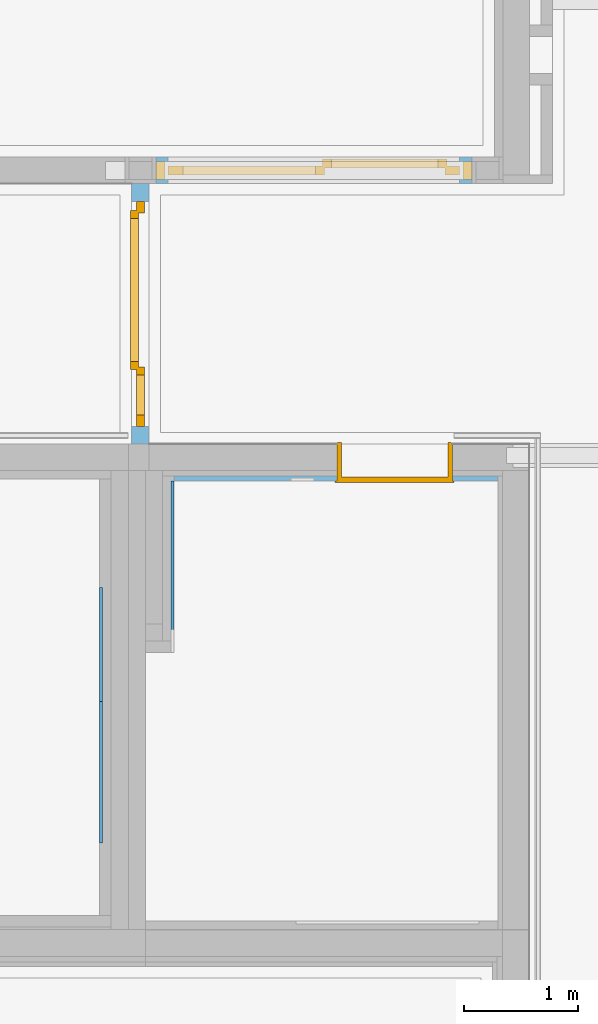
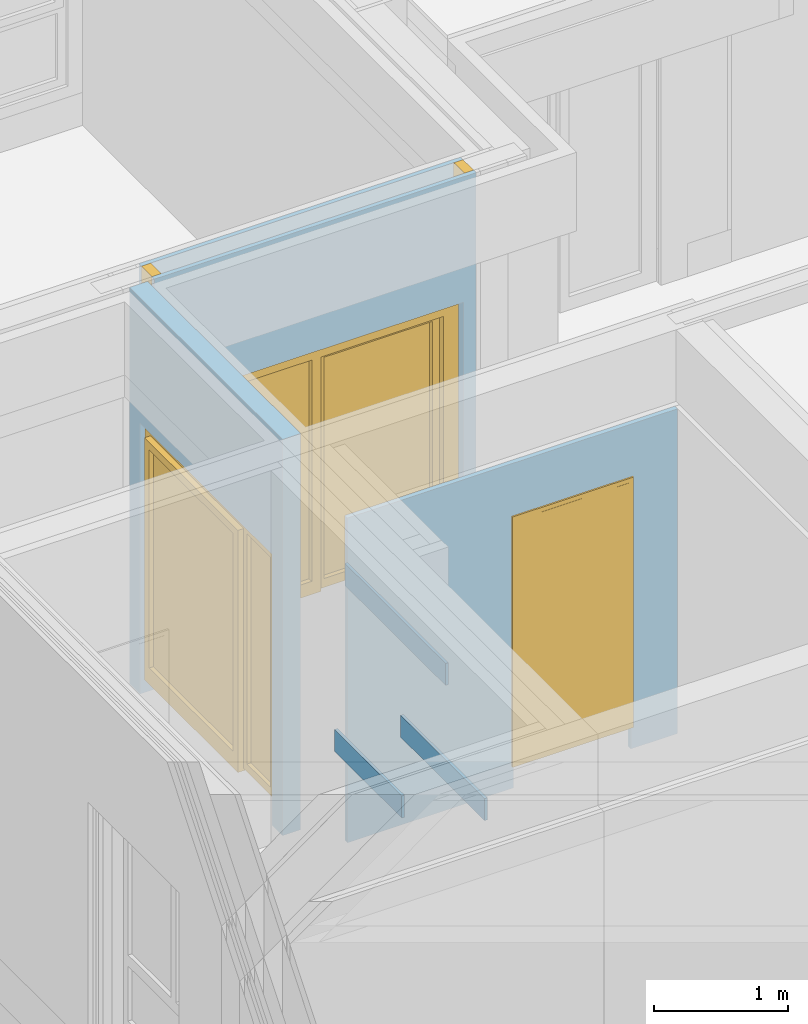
# One storey, part 131 of 207: 3 doors, 3 walls, 3 openings, plus 3 elements that do not belong to this part.
"""IFC4 building model written with IfcOpenShell, lengths in metres."""

from ifc_helpers import new_model, entity, si_unit, converted_unit, derived_unit, frame, frame_2d, origin, origin_with_axes, place, context, subcontext, project, spatial, polyline, rectangle, outline, extrude, clip, bounded_halfspace, closed_shell, open_shell, faceted_brep, surface_model, source, transform, mapped, material, type_object, element, fill, save


model = new_model("IFC4")

# Units and contexts
model_context = context("Model", 3, precision=1e-05, world=origin())
body_context = subcontext(model_context, "Body", "Model", "MODEL_VIEW")
ifc_project = project(units=[si_unit("LENGTHUNIT", "METRE"), si_unit("AREAUNIT", "SQUARE_METRE"), si_unit("VOLUMEUNIT", "CUBIC_METRE"), si_unit("MASSUNIT", "GRAM", prefix="KILO"), converted_unit("PLANEANGLEUNIT", "DEGREE", entity("IfcPlaneAngleMeasure", 0.0174532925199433), si_unit("PLANEANGLEUNIT", "RADIAN"), dimensions=[0, 0, 0, 0, 0, 0, 0]), derived_unit("THERMALTRANSMITTANCEUNIT", [(si_unit("POWERUNIT", "WATT"), 1), (si_unit("THERMODYNAMICTEMPERATUREUNIT", "KELVIN"), -1), (si_unit("LENGTHUNIT", "METRE"), -2)]), derived_unit("VOLUMETRICFLOWRATEUNIT", [(si_unit("LENGTHUNIT", "METRE"), 3), (converted_unit("TIMEUNIT", "hour", entity("IfcTimeMeasure", 3600.0), si_unit("TIMEUNIT", "SECOND"), dimensions=[0, 0, 1, 0, 0, 0, 0]), -1), (si_unit("LENGTHUNIT", "METRE"), -1)])], contexts=[model_context])

# Site, building, storey
site_placement = place(None, origin())
site = spatial("IfcSite", under=ifc_project, at=site_placement, Name="Psychiatrie Neubau Wunstorf", CompositionType="ELEMENT")
building_placement = place(site_placement, origin())
building = spatial("IfcBuilding", under=site, at=building_placement, Name="Neubau H2 Stationsgebäude", CompositionType="ELEMENT")
storey_placement = place(building_placement, frame((0.0, 0.0, -0.2)))
storey = spatial("IfcBuildingStorey", under=building, at=storey_placement, Name="H2 Ebene 0", CompositionType="ELEMENT", Elevation=-0.2)

# Wall, opening, door
ifc_material_1 = material(Name="WI-LW 60")
wall_1_placement = place(storey_placement, frame((64.6385, 22.8639999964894, 0.0), z_axis=(0.0, 0.0, 1.0), x_axis=(0.0, -1.0, 0.0)))
wall_1 = element("IfcWall", 1, at=wall_1_placement, inside=storey, material=ifc_material_1, context=body_context, shape_type="SweptSolid", body=[
    extrude(rectangle(XDim=2.27800196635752, YDim=0.155, at=frame_2d((1.13900098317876, 0.0775), x_axis=(1.0, 0.0))), origin_with_axes(), (0.0, 0.0, 1.0), 3.6),
])
opening_1_placement = place(wall_1_placement, frame((0.155000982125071, 0.0, 0.0), z_axis=(0.0, 1.0, 0.0), x_axis=(0.0, 0.0, 1.0)))
opening_1 = element("IfcOpeningElement", 2, at=opening_1_placement, cuts=wall_1, Name="Türöffnung", ObjectType="Opening", context=body_context, shape_type="SweptSolid", body=[
    extrude(outline(polyline([(2.46, 1.968), (2.46, 0.0), (0.0, 0.0), (0.0, 1.968), (2.46, 1.968)])), origin_with_axes(), (0.0, 0.0, 1.0), 0.155),
])
ifc_material_2 = material(Name="TI-1F-SG-D-M")
shared_shape_1 = source(origin_with_axes(), body_context, "Body", "Brep", [
    faceted_brep([(2.09549999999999, 0.0855000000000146, 0.0), (1.99549999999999, 0.0855000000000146, 0.0), (1.99549999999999, -0.0144999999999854, 0.0), (2.09549999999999, -0.0144999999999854, 0.0), (2.09549999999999, -0.0144999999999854, 3.6), (1.99549999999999, -0.0144999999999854, 3.6), (1.99549999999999, 0.0855000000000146, 3.6), (2.09549999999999, 0.0855000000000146, 3.6)], [[[0, 1, 2, 3]], [[4, 5, 6, 7]], [[3, 4, 7, 0]], [[2, 5, 4, 3]], [[1, 6, 5, 2]], [[0, 7, 6, 1]]], orient=[[False], [False], [False], [False], [False], [False]]),
    faceted_brep([(-0.0275000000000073, 0.0855000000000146, 0.0), (-0.127500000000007, 0.0855000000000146, 0.0), (-0.127500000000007, -0.0144999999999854, 0.0), (-0.0275000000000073, -0.0144999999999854, 0.0), (-0.0275000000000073, -0.0144999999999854, 3.6), (-0.127500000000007, -0.0144999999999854, 3.6), (-0.127500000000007, 0.0855000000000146, 3.6), (-0.0275000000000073, 0.0855000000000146, 3.6)], [[[0, 1, 2, 3]], [[4, 5, 6, 7]], [[3, 4, 7, 0]], [[2, 5, 4, 3]], [[1, 6, 5, 2]], [[0, 7, 6, 1]]], orient=[[False], [False], [False], [False], [False], [False]]),
    faceted_brep([(1.99549999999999, 0.0855000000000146, 2.4875), (-0.0275000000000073, 0.0855000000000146, 2.4875), (-0.0275000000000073, -0.0144999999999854, 2.4875), (1.99549999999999, -0.0144999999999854, 2.4875), (1.99549999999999, -0.0144999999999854, 2.5875), (-0.0275000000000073, -0.0144999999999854, 2.5875), (-0.0275000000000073, 0.0855000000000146, 2.5875), (1.99549999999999, 0.0855000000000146, 2.5875)], [[[0, 1, 2, 3]], [[4, 5, 6, 7]], [[3, 4, 7, 0]], [[2, 5, 4, 3]], [[1, 6, 5, 2]], [[0, 7, 6, 1]]], orient=[[False], [False], [False], [False], [False], [False]]),
])
shared_shape_2 = source(origin_with_axes(), body_context, "Body", "SurfaceModel", [
    surface_model("IfcShellBasedSurfaceModel", [(1.96799999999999, 0.000500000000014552, 2.46), (1.96799999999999, 0.000500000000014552, 0.2), (1.86799999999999, 0.000500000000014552, 0.2), (1.86799999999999, 0.000500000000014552, 2.46), (1.96799999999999, 0.0705000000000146, 0.2), (1.96799999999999, 0.0705000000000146, 2.46), (1.86799999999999, 0.0705000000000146, 2.46), (1.86799999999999, 0.0705000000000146, 0.2)], [closed_shell([[[0, 1, 2, 3]], [[4, 5, 6, 7]], [[1, 0, 5, 4]], [[2, 1, 4, 7]], [[3, 2, 7, 6]], [[0, 3, 6, 5]]], orient=[[False], [False], [False], [False], [False], [False]])]),
    surface_model("IfcShellBasedSurfaceModel", [(0.0999999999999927, 0.000500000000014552, 2.46), (0.0999999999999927, 0.000500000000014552, 0.2), (0.0, 0.000500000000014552, 0.2), (0.0, 0.000500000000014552, 2.46), (0.0999999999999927, 0.0705000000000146, 0.2), (0.0999999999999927, 0.0705000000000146, 2.46), (0.0, 0.0705000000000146, 2.46), (0.0, 0.0705000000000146, 0.2)], [closed_shell([[[0, 1, 2, 3]], [[4, 5, 6, 7]], [[1, 0, 5, 4]], [[2, 1, 4, 7]], [[3, 2, 7, 6]], [[0, 3, 6, 5]]], orient=[[False], [False], [False], [False], [False], [False]])]),
    surface_model("IfcShellBasedSurfaceModel", [(1.86799999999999, 0.000500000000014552, 2.46), (1.86799999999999, 0.000500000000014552, 2.36), (0.0999999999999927, 0.000500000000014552, 2.36), (0.0999999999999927, 0.000500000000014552, 2.46), (1.86799999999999, 0.0705000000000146, 2.36), (1.86799999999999, 0.0705000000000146, 2.46), (0.0999999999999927, 0.0705000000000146, 2.46), (0.0999999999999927, 0.0705000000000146, 2.36)], [closed_shell([[[0, 1, 2, 3]], [[4, 5, 6, 7]], [[1, 0, 5, 4]], [[2, 1, 4, 7]], [[3, 2, 7, 6]], [[0, 3, 6, 5]]], orient=[[False], [False], [False], [False], [False], [False]])]),
    surface_model("IfcShellBasedSurfaceModel", [(0.517999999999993, 0.000500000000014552, 2.36), (0.517999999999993, 0.000500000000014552, 0.2), (0.447999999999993, 0.000500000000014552, 0.2), (0.447999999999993, 0.000500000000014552, 2.36), (0.517999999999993, 0.0705000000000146, 0.2), (0.517999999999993, 0.0705000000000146, 2.36), (0.447999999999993, 0.0705000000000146, 2.36), (0.447999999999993, 0.0705000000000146, 0.2)], [closed_shell([[[0, 1, 2, 3]], [[4, 5, 6, 7]], [[1, 0, 5, 4]], [[2, 1, 4, 7]], [[3, 2, 7, 6]], [[0, 3, 6, 5]]], orient=[[False], [False], [False], [False], [False], [False]])]),
    surface_model("IfcShellBasedSurfaceModel", [(1.88799999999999, 0.0505000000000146, 2.38), (1.88799999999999, 0.0505000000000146, 0.18), (1.81799999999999, 0.0505000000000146, 0.18), (1.81799999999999, 0.0505000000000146, 2.38), (1.88799999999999, 0.120500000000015, 0.18), (1.88799999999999, 0.120500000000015, 2.38), (1.81799999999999, 0.120500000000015, 2.38), (1.81799999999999, 0.120500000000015, 0.18)], [closed_shell([[[0, 1, 2, 3]], [[4, 5, 6, 7]], [[1, 0, 5, 4]], [[2, 1, 4, 7]], [[3, 2, 7, 6]], [[0, 3, 6, 5]]], orient=[[False], [False], [False], [False], [False], [False]])]),
    surface_model("IfcShellBasedSurfaceModel", [(0.567999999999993, 0.0505000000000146, 2.38), (0.567999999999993, 0.0505000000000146, 0.18), (0.497999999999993, 0.0505000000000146, 0.18), (0.497999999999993, 0.0505000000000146, 2.38), (0.567999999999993, 0.120500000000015, 0.18), (0.567999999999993, 0.120500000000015, 2.38), (0.497999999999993, 0.120500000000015, 2.38), (0.497999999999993, 0.120500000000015, 0.18)], [closed_shell([[[0, 1, 2, 3]], [[4, 5, 6, 7]], [[1, 0, 5, 4]], [[2, 1, 4, 7]], [[3, 2, 7, 6]], [[0, 3, 6, 5]]], orient=[[False], [False], [False], [False], [False], [False]])]),
    surface_model("IfcShellBasedSurfaceModel", [(1.81799999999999, 0.0505000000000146, 0.33), (1.81799999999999, 0.0505000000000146, 0.18), (0.567999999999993, 0.0505000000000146, 0.18), (0.567999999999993, 0.0505000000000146, 0.33), (1.81799999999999, 0.120500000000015, 0.18), (1.81799999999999, 0.120500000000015, 0.33), (0.567999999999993, 0.120500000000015, 0.33), (0.567999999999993, 0.120500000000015, 0.18)], [closed_shell([[[0, 1, 2, 3]], [[4, 5, 6, 7]], [[1, 0, 5, 4]], [[2, 1, 4, 7]], [[3, 2, 7, 6]], [[0, 3, 6, 5]]], orient=[[False], [False], [False], [False], [False], [False]])]),
    surface_model("IfcShellBasedSurfaceModel", [(1.81799999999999, 0.0505000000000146, 2.38), (1.81799999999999, 0.0505000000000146, 2.31), (0.567999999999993, 0.0505000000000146, 2.31), (0.567999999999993, 0.0505000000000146, 2.38), (1.81799999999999, 0.120500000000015, 2.31), (1.81799999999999, 0.120500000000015, 2.38), (0.567999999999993, 0.120500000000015, 2.38), (0.567999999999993, 0.120500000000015, 2.31)], [closed_shell([[[0, 1, 2, 3]], [[4, 5, 6, 7]], [[1, 0, 5, 4]], [[2, 1, 4, 7]], [[3, 2, 7, 6]], [[0, 3, 6, 5]]], orient=[[False], [False], [False], [False], [False], [False]])]),
    surface_model("IfcShellBasedSurfaceModel", [(0.447999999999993, 0.000500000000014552, 0.27), (0.447999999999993, 0.000500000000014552, 0.2), (0.0999999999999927, 0.000500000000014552, 0.2), (0.0999999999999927, 0.000500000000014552, 0.27), (0.447999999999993, 0.0705000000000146, 0.2), (0.447999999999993, 0.0705000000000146, 0.27), (0.0999999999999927, 0.0705000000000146, 0.27), (0.0999999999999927, 0.0705000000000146, 0.2)], [closed_shell([[[0, 1, 2, 3]], [[4, 5, 6, 7]], [[1, 0, 5, 4]], [[2, 1, 4, 7]], [[3, 2, 7, 6]], [[0, 3, 6, 5]]], orient=[[False], [False], [False], [False], [False], [False]])]),
    surface_model("IfcShellBasedSurfaceModel", [(1.81799999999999, 0.0855000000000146, 0.33), (0.567999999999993, 0.0855000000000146, 0.33), (0.567999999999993, 0.0855000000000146, 2.31), (1.81799999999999, 0.0855000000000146, 2.31)], [open_shell([[[0, 1, 2, 3]]], orient=[[False]])]),
    surface_model("IfcShellBasedSurfaceModel", [(0.447999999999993, 0.0355000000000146, 0.27), (0.0999999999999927, 0.0355000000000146, 0.27), (0.0999999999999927, 0.0355000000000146, 2.36), (0.447999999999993, 0.0355000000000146, 2.36)], [open_shell([[[0, 1, 2, 3]]], orient=[[False]])]),
])
door_1_placement = place(opening_1_placement, frame((0.0, 1.968, 0.113), z_axis=(1.0, 0.0, 0.0), x_axis=(0.0, -1.0, 0.0)))
door_1 = element("IfcDoor", 3, at=door_1_placement, inside=storey, material=ifc_material_2, Name="SMT", OperationType="USERDEFINED", OverallHeight=2.46, OverallWidth=1.968, PredefinedType="DOOR", context=body_context, shape_type="MappedRepresentation", body=[
    mapped(shared_shape_1, transform((0.0, 0.0, 0.0), x_axis=(1.0, 0.0, 0.0), y_axis=(0.0, 1.0, 0.0), z_axis=(0.0, 0.0, 1.0), scale=1.0)),
    mapped(shared_shape_2, transform((0.0, 0.0, 0.0), x_axis=(1.0, 0.0, 0.0), y_axis=(0.0, 1.0, 0.0), z_axis=(0.0, 0.0, 1.0), scale=1.0)),
])
fill(opening_1, door_1)

ifc_material_3 = material(Name="WI-LW 60")
wall_2_placement = place(storey_placement, frame((67.617, 23.0959999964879, 0.0), z_axis=(0.0, 0.0, 1.0), x_axis=(-1.0, 0.0, 0.0)))
wall_2 = element("IfcWall", 4, at=wall_2_placement, inside=storey, material=ifc_material_3, context=body_context, shape_type="Clipping", body=[
    clip(extrude(rectangle(XDim=2.765, YDim=0.232, at=frame_2d((1.3825, 0.116), x_axis=(1.0, 0.0))), origin_with_axes(), (0.0, 0.0, 1.0), 3.6), bounded_halfspace(frame((1.3825, 0.116001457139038, 3.3), z_axis=(0.0, 0.0, -1.0), x_axis=(0.0, -1.0, 0.0)), True, origin_with_axes(), polyline([(0.0, 0.196002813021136), (0.0, 0.0360028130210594), (2.765, 0.0360001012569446), (2.765, 0.196000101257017), (0.0, 0.196002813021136)]))),
])
opening_2_placement = place(wall_2_placement, frame((2.6575, 0.232, 0.0), z_axis=(0.0, -1.0, 0.0), x_axis=(0.0, 0.0, 1.0)))
opening_2 = element("IfcOpeningElement", 5, at=opening_2_placement, cuts=wall_2, Name="Türöffnung", ObjectType="Opening", context=body_context, shape_type="SweptSolid", body=[
    extrude(outline(polyline([(2.46, 2.55), (2.46, 0.0), (0.0, 0.0), (0.0, 2.55), (2.46, 2.55)])), origin_with_axes(), (0.0, 0.0, 1.0), 0.232),
])
ifc_material_4 = material(Name="TI-1F-AG-D-1S-O")
shared_shape_3 = source(origin_with_axes(), body_context, "Body", "Brep", [
    faceted_brep([(-0.1075, -0.04, 0.0), (-0.0275, -0.04, 0.0), (-0.0275, 0.12, 0.0), (-0.1075, 0.12, 0.0), (-0.1075, 0.12, 3.6), (-0.0275, 0.12, 3.6), (-0.0275, -0.04, 3.6), (-0.1075, -0.04, 3.6)], [[[0, 1, 2, 3]], [[4, 5, 6, 7]], [[3, 4, 7, 0]], [[2, 5, 4, 3]], [[1, 6, 5, 2]], [[0, 7, 6, 1]]], orient=[[False], [False], [False], [False], [False], [False]]),
    faceted_brep([(2.5775, -0.04, 0.0), (2.6575, -0.04, 0.0), (2.6575, 0.12, 0.0), (2.5775, 0.12, 0.0), (2.5775, 0.12, 3.6), (2.6575, 0.12, 3.6), (2.6575, -0.04, 3.6), (2.5775, -0.04, 3.6)], [[[0, 1, 2, 3]], [[4, 5, 6, 7]], [[3, 4, 7, 0]], [[2, 5, 4, 3]], [[1, 6, 5, 2]], [[0, 7, 6, 1]]], orient=[[False], [False], [False], [False], [False], [False]]),
    faceted_brep([(-0.0275, -0.04, 2.4875), (2.5775, -0.04, 2.4875), (2.5775, 0.12, 2.4875), (-0.0275, 0.12, 2.4875), (-0.0275, 0.12, 2.5675), (2.5775, 0.12, 2.5675), (2.5775, -0.04, 2.5675), (-0.0275, -0.04, 2.5675)], [[[0, 1, 2, 3]], [[4, 5, 6, 7]], [[3, 4, 7, 0]], [[2, 5, 4, 3]], [[1, 6, 5, 2]], [[0, 7, 6, 1]]], orient=[[False], [False], [False], [False], [False], [False]]),
])
shared_shape_4 = source(origin_with_axes(), body_context, "Body", "SurfaceModel", [
    surface_model("IfcShellBasedSurfaceModel", [(2.55, 0.0005, 2.46), (2.55, 0.0005, 0.2), (2.5, 0.0005, 0.2), (2.5, 0.0005, 2.46), (2.55, 0.0795, 0.2), (2.55, 0.0795, 2.46), (2.5, 0.0795, 2.46), (2.5, 0.0795, 0.2)], [closed_shell([[[0, 1, 2, 3]], [[4, 5, 6, 7]], [[1, 0, 5, 4]], [[2, 1, 4, 7]], [[3, 2, 7, 6]], [[0, 3, 6, 5]]], orient=[[False], [False], [False], [False], [False], [False]])]),
    surface_model("IfcShellBasedSurfaceModel", [(0.05, 0.0005, 2.46), (0.05, 0.0005, 0.2), (0.0, 0.0005, 0.2), (0.0, 0.0005, 2.46), (0.05, 0.0795, 0.2), (0.05, 0.0795, 2.46), (0.0, 0.0795, 2.46), (0.0, 0.0795, 0.2)], [closed_shell([[[0, 1, 2, 3]], [[4, 5, 6, 7]], [[1, 0, 5, 4]], [[2, 1, 4, 7]], [[3, 2, 7, 6]], [[0, 3, 6, 5]]], orient=[[False], [False], [False], [False], [False], [False]])]),
    surface_model("IfcShellBasedSurfaceModel", [(2.5, 0.0005, 2.46), (2.5, 0.0005, 2.41), (0.05, 0.0005, 2.41), (0.05, 0.0005, 2.46), (2.5, 0.0795, 2.41), (2.5, 0.0795, 2.46), (0.05, 0.0795, 2.46), (0.05, 0.0795, 2.41)], [closed_shell([[[0, 1, 2, 3]], [[4, 5, 6, 7]], [[1, 0, 5, 4]], [[2, 1, 4, 7]], [[3, 2, 7, 6]], [[0, 3, 6, 5]]], orient=[[False], [False], [False], [False], [False], [False]])]),
    surface_model("IfcShellBasedSurfaceModel", [(2.5, 0.0, 2.41), (2.5, 0.0, 0.2), (2.42, 0.0, 0.2), (2.42, 0.0, 2.41), (2.5, 0.08, 0.2), (2.5, 0.08, 2.41), (2.42, 0.08, 2.41), (2.42, 0.08, 0.2)], [closed_shell([[[0, 1, 2, 3]], [[4, 5, 6, 7]], [[1, 0, 5, 4]], [[2, 1, 4, 7]], [[3, 2, 7, 6]], [[0, 3, 6, 5]]], orient=[[False], [False], [False], [False], [False], [False]])]),
    surface_model("IfcShellBasedSurfaceModel", [(0.13, 0.0, 2.41), (0.13, 0.0, 0.2), (0.05, 0.0, 0.2), (0.05, 0.0, 2.41), (0.13, 0.08, 0.2), (0.13, 0.08, 2.41), (0.05, 0.08, 2.41), (0.05, 0.08, 0.2)], [closed_shell([[[0, 1, 2, 3]], [[4, 5, 6, 7]], [[1, 0, 5, 4]], [[2, 1, 4, 7]], [[3, 2, 7, 6]], [[0, 3, 6, 5]]], orient=[[False], [False], [False], [False], [False], [False]])]),
    surface_model("IfcShellBasedSurfaceModel", [(2.42, 0.0, 2.41), (2.42, 0.0, 2.33), (0.13, 0.0, 2.33), (0.13, 0.0, 2.41), (2.42, 0.08, 2.33), (2.42, 0.08, 2.41), (0.13, 0.08, 2.41), (0.13, 0.08, 2.33)], [closed_shell([[[0, 1, 2, 3]], [[4, 5, 6, 7]], [[1, 0, 5, 4]], [[2, 1, 4, 7]], [[3, 2, 7, 6]], [[0, 3, 6, 5]]], orient=[[False], [False], [False], [False], [False], [False]])]),
    surface_model("IfcShellBasedSurfaceModel", [(2.44, 0.06, 2.35), (2.44, 0.06, 0.18), (2.36, 0.06, 0.18), (2.36, 0.06, 2.35), (2.44, 0.14, 0.18), (2.44, 0.14, 2.35), (2.36, 0.14, 2.35), (2.36, 0.14, 0.18)], [closed_shell([[[0, 1, 2, 3]], [[4, 5, 6, 7]], [[1, 0, 5, 4]], [[2, 1, 4, 7]], [[3, 2, 7, 6]], [[0, 3, 6, 5]]], orient=[[False], [False], [False], [False], [False], [False]])]),
    surface_model("IfcShellBasedSurfaceModel", [(1.43, 0.06, 2.35), (1.43, 0.06, 0.18), (1.35, 0.06, 0.18), (1.35, 0.06, 2.35), (1.43, 0.14, 0.18), (1.43, 0.14, 2.35), (1.35, 0.14, 2.35), (1.35, 0.14, 0.18)], [closed_shell([[[0, 1, 2, 3]], [[4, 5, 6, 7]], [[1, 0, 5, 4]], [[2, 1, 4, 7]], [[3, 2, 7, 6]], [[0, 3, 6, 5]]], orient=[[False], [False], [False], [False], [False], [False]])]),
    surface_model("IfcShellBasedSurfaceModel", [(2.36, 0.06, 0.26), (2.36, 0.06, 0.18), (1.43, 0.06, 0.18), (1.43, 0.06, 0.26), (2.36, 0.14, 0.18), (2.36, 0.14, 0.26), (1.43, 0.14, 0.26), (1.43, 0.14, 0.18)], [closed_shell([[[0, 1, 2, 3]], [[4, 5, 6, 7]], [[1, 0, 5, 4]], [[2, 1, 4, 7]], [[3, 2, 7, 6]], [[0, 3, 6, 5]]], orient=[[False], [False], [False], [False], [False], [False]])]),
    surface_model("IfcShellBasedSurfaceModel", [(2.36, 0.06, 2.35), (2.36, 0.06, 2.27), (1.43, 0.06, 2.27), (1.43, 0.06, 2.35), (2.36, 0.14, 2.27), (2.36, 0.14, 2.35), (1.43, 0.14, 2.35), (1.43, 0.14, 2.27)], [closed_shell([[[0, 1, 2, 3]], [[4, 5, 6, 7]], [[1, 0, 5, 4]], [[2, 1, 4, 7]], [[3, 2, 7, 6]], [[0, 3, 6, 5]]], orient=[[False], [False], [False], [False], [False], [False]])]),
    surface_model("IfcShellBasedSurfaceModel", [(1.369, 0.0, 2.33), (1.369, 0.0, 0.2), (1.289, 0.0, 0.2), (1.289, 0.0, 2.33), (1.369, 0.08, 0.2), (1.369, 0.08, 2.33), (1.289, 0.08, 2.33), (1.289, 0.08, 0.2)], [closed_shell([[[0, 1, 2, 3]], [[4, 5, 6, 7]], [[1, 0, 5, 4]], [[2, 1, 4, 7]], [[3, 2, 7, 6]], [[0, 3, 6, 5]]], orient=[[False], [False], [False], [False], [False], [False]])]),
    surface_model("IfcShellBasedSurfaceModel", [(1.289, 0.0, 0.32), (1.289, 0.0, 0.2), (0.13, 0.0, 0.2), (0.13, 0.0, 0.32), (1.289, 0.08, 0.2), (1.289, 0.08, 0.32), (0.13, 0.08, 0.32), (0.13, 0.08, 0.2)], [closed_shell([[[0, 1, 2, 3]], [[4, 5, 6, 7]], [[1, 0, 5, 4]], [[2, 1, 4, 7]], [[3, 2, 7, 6]], [[0, 3, 6, 5]]], orient=[[False], [False], [False], [False], [False], [False]])]),
    surface_model("IfcShellBasedSurfaceModel", [(1.289, 0.04, 0.32), (0.13, 0.04, 0.32), (0.13, 0.04, 2.33), (1.289, 0.04, 2.33)], [open_shell([[[0, 1, 2, 3]]], orient=[[False]])]),
    surface_model("IfcShellBasedSurfaceModel", [(2.36, 0.1, 0.26), (1.43, 0.1, 0.26), (1.43, 0.1, 2.27), (2.36, 0.1, 2.27)], [open_shell([[[0, 1, 2, 3]]], orient=[[False]])]),
])
door_2_placement = place(opening_2_placement, frame((0.0, 0.0, 0.076), z_axis=(1.0, 0.0, 0.0), x_axis=(0.0, 1.0, 0.0)))
door_2 = element("IfcDoor", 6, at=door_2_placement, inside=storey, material=ifc_material_4, Name="SMT", OperationType="USERDEFINED", OverallHeight=2.46, OverallWidth=2.55, PredefinedType="DOOR", context=body_context, shape_type="MappedRepresentation", body=[
    mapped(shared_shape_3, transform((0.0, 0.0, 0.0), x_axis=(1.0, 0.0, 0.0), y_axis=(0.0, 1.0, 0.0), z_axis=(0.0, 0.0, 1.0), scale=1.0)),
    mapped(shared_shape_4, transform((0.0, 0.0, 0.0), x_axis=(1.0, 0.0, 0.0), y_axis=(0.0, 1.0, 0.0), z_axis=(0.0, 0.0, 1.0), scale=1.0)),
])
fill(opening_2, door_2)

# Walls
wall_3_placement = place(storey_placement, frame((64.985, 18.7609960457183, 2.35)))
element("IfcWall", 7, at=wall_3_placement, inside=storey, Name="WV 1.1", context=body_context, shape_type="Brep", body=[
    faceted_brep([(0.0, 0.0, 0.0), (0.025, 0.0, 0.0), (0.025, 1.5, 0.0), (0.0, 1.5, 0.0), (0.025, 0.0, 0.2), (0.0, 0.0, 0.2), (0.0, 1.5, 0.2), (0.025, 1.5, 0.2)], [[[0, 1, 2, 3]], [[4, 5, 6, 7]], [[1, 0, 5, 4]], [[2, 1, 4, 7]], [[3, 2, 7, 6]], [[0, 3, 6, 5]]], orient=[[False], [False], [False], [False], [False], [False]]),
])
wall_4_placement = place(storey_placement, frame((64.36, 17.09625211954, 2.35)))
element("IfcWall", 8, at=wall_4_placement, inside=storey, Name="WV 1.1", context=body_context, shape_type="Brep", body=[
    faceted_brep([(0.0, 0.0, 0.0), (0.025, 0.0, 0.0), (0.025, 1.25, 0.0), (0.0, 1.25, 0.0), (0.025, 0.0, 0.2), (0.0, 0.0, 0.2), (0.0, 1.25, 0.2), (0.025, 1.25, 0.2)], [[[0, 1, 2, 3]], [[4, 5, 6, 7]], [[1, 0, 5, 4]], [[2, 1, 4, 7]], [[3, 2, 7, 6]], [[0, 3, 6, 5]]], orient=[[False], [False], [False], [False], [False], [False]]),
])
wall_5_placement = place(storey_placement, frame((64.36, 18.3310000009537, 1.625)))
element("IfcWall", 9, at=wall_5_placement, inside=storey, Name="WV 1.1", context=body_context, shape_type="Brep", body=[
    faceted_brep([(0.0, 0.0, 0.0), (0.025, 0.0, 0.0), (0.025, 1.0, 0.0), (0.0, 1.0, 0.0), (0.025, 0.0, 0.2), (0.0, 0.0, 0.2), (0.0, 1.0, 0.2), (0.025, 1.0, 0.2)], [[[0, 1, 2, 3]], [[4, 5, 6, 7]], [[1, 0, 5, 4]], [[2, 1, 4, 7]], [[3, 2, 7, 6]], [[0, 3, 6, 5]]], orient=[[False], [False], [False], [False], [False], [False]]),
])

# Wall, opening, door
ifc_material_5 = material(Name="WI-LB")
wall_6_placement = place(storey_placement, frame((65.01, 20.2644981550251, 0.0)))
wall_6 = element("IfcWall", 10, at=wall_6_placement, inside=storey, material=ifc_material_5, context=body_context, shape_type="SweptSolid", body=[
    extrude(rectangle(XDim=2.836, YDim=0.0395, at=frame_2d((1.418, 0.01975), x_axis=(1.0, 0.0))), origin_with_axes(), (0.0, 0.0, 1.0), 2.95),
])
opening_3_placement = place(wall_6_placement, frame((2.4355, 0.0395, 0.0), z_axis=(0.0, -1.0, 0.0), x_axis=(0.0, 0.0, 1.0)))
opening_3 = element("IfcOpeningElement", 11, at=opening_3_placement, cuts=wall_6, Name="Türöffnung", ObjectType="Opening", context=body_context, shape_type="SweptSolid", body=[
    extrude(outline(polyline([(2.46, 1.01), (2.46, 0.0), (0.0, 0.0), (0.0, 1.01), (2.46, 1.01)])), origin_with_axes(), (0.0, 0.0, 1.0), 0.0395),
])
ifc_material_6 = material(Name="TI-1F-UZ-ZK")
door_type = type_object("IfcDoorType", Name="SMT", OperationType="SINGLE_SWING_RIGHT", ParameterTakesPrecedence=False, PredefinedType="DOOR")
shared_shape_5 = source(origin_with_axes(), body_context, "Body", "Brep", [
    faceted_brep([(0.0, -0.015, 2.46), (0.04, -0.015, 2.46), (0.04, -0.015, 0.2), (0.0, -0.015, 0.2), (0.0, 0.3365, 0.2), (0.04, 0.3365, 0.2), (0.04, 0.3365, 2.46), (0.0, 0.3365, 2.46)], [[[0, 1, 2, 3]], [[4, 5, 6, 7]], [[3, 4, 7, 0]], [[2, 5, 4, 3]], [[1, 6, 5, 2]], [[0, 7, 6, 1]]], orient=[[False], [False], [False], [False], [False], [False]]),
    faceted_brep([(0.0, -0.015, 2.475), (0.0, -0.015, 0.2), (-0.015, -0.015, 0.2), (-0.015, -0.015, 2.475), (0.0, 0.0, 0.2), (0.0, 0.0, 2.475), (-0.015, 0.0, 2.475), (-0.015, 0.0, 0.2)], [[[0, 1, 2, 3]], [[4, 5, 6, 7]], [[1, 0, 5, 4]], [[2, 1, 4, 7]], [[3, 2, 7, 6]], [[0, 3, 6, 5]]], orient=[[False], [False], [False], [False], [False], [False]]),
    faceted_brep([(0.0, 0.3215, 2.475), (0.0, 0.3215, 0.2), (-0.015, 0.3215, 0.2), (-0.015, 0.3215, 2.475), (0.0, 0.3365, 0.2), (0.0, 0.3365, 2.475), (-0.015, 0.3365, 2.475), (-0.015, 0.3365, 0.2)], [[[0, 1, 2, 3]], [[4, 5, 6, 7]], [[1, 0, 5, 4]], [[2, 1, 4, 7]], [[3, 2, 7, 6]], [[0, 3, 6, 5]]], orient=[[False], [False], [False], [False], [False], [False]]),
    faceted_brep([(0.97, -0.015, 2.46), (1.01, -0.015, 2.46), (1.01, -0.015, 0.2), (0.97, -0.015, 0.2), (0.97, 0.3365, 0.2), (1.01, 0.3365, 0.2), (1.01, 0.3365, 2.46), (0.97, 0.3365, 2.46)], [[[0, 1, 2, 3]], [[4, 5, 6, 7]], [[3, 4, 7, 0]], [[2, 5, 4, 3]], [[1, 6, 5, 2]], [[0, 7, 6, 1]]], orient=[[False], [False], [False], [False], [False], [False]]),
    faceted_brep([(1.01, -0.015, 2.475), (1.025, -0.015, 2.475), (1.025, -0.015, 0.2), (1.01, -0.015, 0.2), (1.01, 0.0, 0.2), (1.025, 0.0, 0.2), (1.025, 0.0, 2.475), (1.01, 0.0, 2.475)], [[[0, 1, 2, 3]], [[4, 5, 6, 7]], [[3, 4, 7, 0]], [[2, 5, 4, 3]], [[1, 6, 5, 2]], [[0, 7, 6, 1]]], orient=[[False], [False], [False], [False], [False], [False]]),
    faceted_brep([(1.01, 0.3215, 2.475), (1.025, 0.3215, 2.475), (1.025, 0.3215, 0.2), (1.01, 0.3215, 0.2), (1.01, 0.3365, 0.2), (1.025, 0.3365, 0.2), (1.025, 0.3365, 2.475), (1.01, 0.3365, 2.475)], [[[0, 1, 2, 3]], [[4, 5, 6, 7]], [[3, 4, 7, 0]], [[2, 5, 4, 3]], [[1, 6, 5, 2]], [[0, 7, 6, 1]]], orient=[[False], [False], [False], [False], [False], [False]]),
    faceted_brep([(0.04, -0.015, 2.46), (0.97, -0.015, 2.46), (0.97, -0.015, 2.42), (0.04, -0.015, 2.42), (0.04, 0.3365, 2.42), (0.97, 0.3365, 2.42), (0.97, 0.3365, 2.46), (0.04, 0.3365, 2.46)], [[[0, 1, 2, 3]], [[4, 5, 6, 7]], [[3, 4, 7, 0]], [[2, 5, 4, 3]], [[1, 6, 5, 2]], [[0, 7, 6, 1]]], orient=[[False], [False], [False], [False], [False], [False]]),
    faceted_brep([(0.0, -0.015, 2.475), (1.01, -0.015, 2.475), (1.01, -0.015, 2.46), (0.0, -0.015, 2.46), (0.0, 0.0, 2.46), (1.01, 0.0, 2.46), (1.01, 0.0, 2.475), (0.0, 0.0, 2.475)], [[[0, 1, 2, 3]], [[4, 5, 6, 7]], [[3, 4, 7, 0]], [[2, 5, 4, 3]], [[1, 6, 5, 2]], [[0, 7, 6, 1]]], orient=[[False], [False], [False], [False], [False], [False]]),
    faceted_brep([(0.0, 0.3215, 2.475), (1.01, 0.3215, 2.475), (1.01, 0.3215, 2.46), (0.0, 0.3215, 2.46), (0.0, 0.3365, 2.46), (1.01, 0.3365, 2.46), (1.01, 0.3365, 2.475), (0.0, 0.3365, 2.475)], [[[0, 1, 2, 3]], [[4, 5, 6, 7]], [[3, 4, 7, 0]], [[2, 5, 4, 3]], [[1, 6, 5, 2]], [[0, 7, 6, 1]]], orient=[[False], [False], [False], [False], [False], [False]]),
    faceted_brep([(0.025, 0.2875, 2.435), (0.985, 0.2875, 2.435), (0.985, 0.2875, 0.2), (0.025, 0.2875, 0.2), (0.025, 0.3375, 0.2), (0.985, 0.3375, 0.2), (0.985, 0.3375, 2.435), (0.025, 0.3375, 2.435)], [[[0, 1, 2, 3]], [[4, 5, 6, 7]], [[3, 4, 7, 0]], [[2, 5, 4, 3]], [[1, 6, 5, 2]], [[0, 7, 6, 1]]], orient=[[False], [False], [False], [False], [False], [False]]),
])
door_3_placement = place(opening_3_placement, frame((0.0, 0.0, -0.282), z_axis=(1.0, 0.0, 0.0), x_axis=(0.0, 1.0, 0.0)))
door_3 = element("IfcDoor", 12, at=door_3_placement, inside=storey, type_object=door_type, material=ifc_material_6, Name="SMT", OverallHeight=2.46, OverallWidth=1.01, context=body_context, shape_type="MappedRepresentation", body=[
    mapped(shared_shape_5, transform((0.0, 0.0, 0.0), x_axis=(1.0, 0.0, 0.0), y_axis=(0.0, 1.0, 0.0), z_axis=(0.0, 0.0, 1.0), scale=1.0)),
])
fill(opening_3, door_3)

save(model, "model.ifc")
